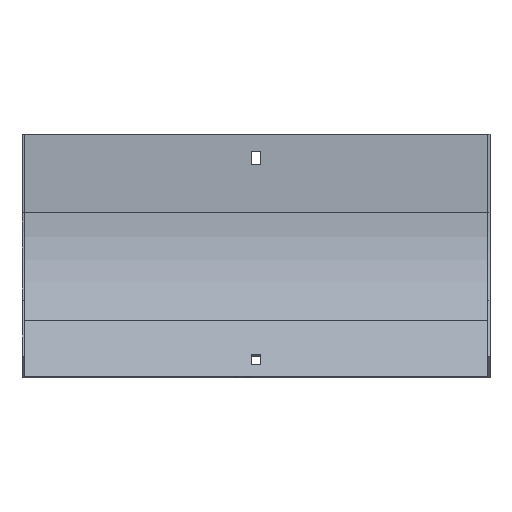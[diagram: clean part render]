
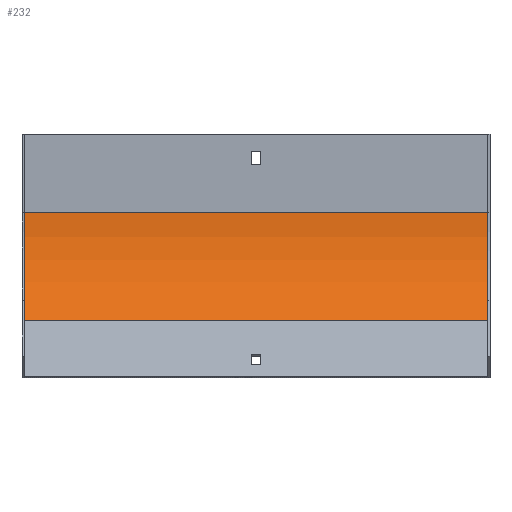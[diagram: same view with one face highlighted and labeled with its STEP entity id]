
A CAD part, front view. The second image highlights one B-rep face of the part: STEP entity #232.
In plain terms, the highlighted cylindrical face has radius 100 mm (diameter 200 mm), a partial arc.
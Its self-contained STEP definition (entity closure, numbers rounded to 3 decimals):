
#61 = CIRCLE ( 'NONE', #802, 100. ) ;
#93 = DIRECTION ( 'NONE',  ( -1., 0., 0. ) ) ;
#97 = CARTESIAN_POINT ( 'NONE',  ( 153.5, -30.789, -122.251 ) ) ;
#114 = CARTESIAN_POINT ( 'NONE',  ( -152., -1.5, -51.54 ) ) ;
#165 = EDGE_CURVE ( 'NONE', #749, #640, #235, .T. ) ;
#220 = VECTOR ( 'NONE', #505, 1000. ) ;
#221 = DIRECTION ( 'NONE',  ( 1., 0., 0. ) ) ;
#224 = CYLINDRICAL_SURFACE ( 'NONE', #774, 100. ) ;
#226 = CARTESIAN_POINT ( 'NONE',  ( 152., -30.789, -122.251 ) ) ;
#232 = ADVANCED_FACE ( 'NONE', ( #509 ), #224, .F. ) ;
#233 = ORIENTED_EDGE ( 'NONE', *, *, #165, .F. ) ;
#235 = LINE ( 'NONE', #97, #220 ) ;
#274 = CARTESIAN_POINT ( 'NONE',  ( -152., -30.789, -122.251 ) ) ;
#307 = DIRECTION ( 'NONE',  ( 0., 0., 1. ) ) ;
#330 = DIRECTION ( 'NONE',  ( 1., 0., 0. ) ) ;
#332 = EDGE_LOOP ( 'NONE', ( #362, #233, #561, #734 ) ) ;
#337 = VECTOR ( 'NONE', #618, 1000. ) ;
#344 = LINE ( 'NONE', #746, #337 ) ;
#351 = CARTESIAN_POINT ( 'NONE',  ( 152., -1.5, -51.54 ) ) ;
#354 = VERTEX_POINT ( 'NONE', #114 ) ;
#362 = ORIENTED_EDGE ( 'NONE', *, *, #381, .F. ) ;
#367 = DIRECTION ( 'NONE',  ( 0., 0., 1. ) ) ;
#381 = EDGE_CURVE ( 'NONE', #640, #354, #61, .T. ) ;
#391 = CARTESIAN_POINT ( 'NONE',  ( -152., -101.5, -51.54 ) ) ;
#402 = CIRCLE ( 'NONE', #671, 100. ) ;
#433 = CARTESIAN_POINT ( 'NONE',  ( 153.5, -101.5, -51.54 ) ) ;
#505 = DIRECTION ( 'NONE',  ( -1., 0., 0. ) ) ;
#509 = FACE_OUTER_BOUND ( 'NONE', #332, .T. ) ;
#561 = ORIENTED_EDGE ( 'NONE', *, *, #833, .T. ) ;
#564 = CARTESIAN_POINT ( 'NONE',  ( 152., -101.5, -51.54 ) ) ;
#606 = VERTEX_POINT ( 'NONE', #351 ) ;
#618 = DIRECTION ( 'NONE',  ( -1., 0., 0. ) ) ;
#624 = DIRECTION ( 'NONE',  ( 0., 0., 1. ) ) ;
#640 = VERTEX_POINT ( 'NONE', #274 ) ;
#671 = AXIS2_PLACEMENT_3D ( 'NONE', #564, #221, #624 ) ;
#698 = EDGE_CURVE ( 'NONE', #606, #354, #344, .T. ) ;
#734 = ORIENTED_EDGE ( 'NONE', *, *, #698, .T. ) ;
#746 = CARTESIAN_POINT ( 'NONE',  ( 153.5, -1.5, -51.54 ) ) ;
#749 = VERTEX_POINT ( 'NONE', #226 ) ;
#774 = AXIS2_PLACEMENT_3D ( 'NONE', #433, #93, #367 ) ;
#802 = AXIS2_PLACEMENT_3D ( 'NONE', #391, #330, #307 ) ;
#833 = EDGE_CURVE ( 'NONE', #749, #606, #402, .T. ) ;
